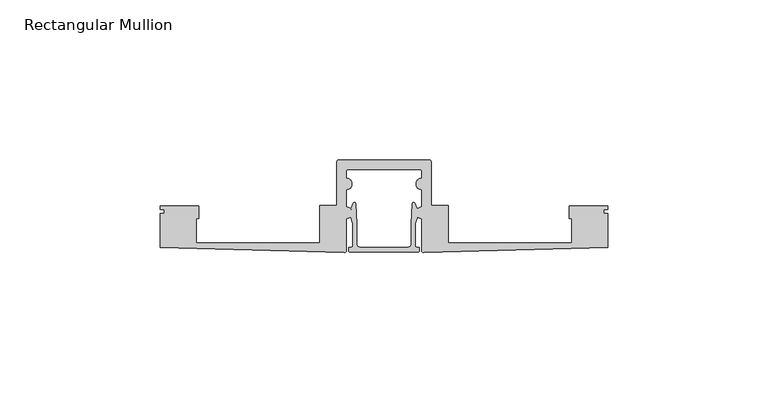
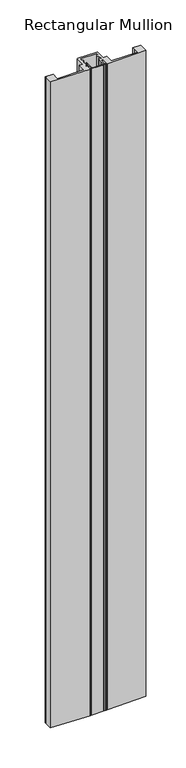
"""IFC4 building model written with IfcOpenShell, lengths in millimetres: member geometry, Rectangular Mullion : TE-H-01_04_Joint HF140."""

from ifc_helpers import new_model, si_unit, point, frame, frame_2d, origin, place, context, project, spatial, polyline, circle_curve, trimmed, segment, composite_curve, outline, extrude, source, transform, mapped, element, save


def rectangular_mullion_7144c495(model_context):
    return source(origin(), model_context, "Body", "SweptSolid", [
        extrude(outline(composite_curve([segment(trimmed(circle_curve(frame_2d((-14.0, 13.51429)), 0.8), [point((-14.8, 13.51429))], [point((-14.0, 14.31429))], False, "CARTESIAN"), True, "CONTINUOUS"), segment(polyline([(-14.0, 14.31429), (14.0, 14.31429)]), True, "CONTINUOUS"), segment(trimmed(circle_curve(frame_2d((14.0, 13.51429)), 0.8), [point((14.0, 14.31429))], [point((14.8, 13.51429))], False, "CARTESIAN"), True, "CONTINUOUS"), segment(polyline([(14.8, 13.51429), (14.8, 0.0), (20.0, 0.0), (20.0, -11.698639), (58.6700606, -11.6929599), (58.6701085, -4.0346075), (57.8702745, -4.0346075), (57.8702745, -0.2128017), (69.9996311, -0.2128017), (69.9996311, -1.2200784), (68.6998747, -1.2200784), (68.6998747, -2.534964), (69.9996311, -2.534964), (69.9996311, -13.034964), (12.4171521, -14.6817414)]), True, "CONTINUOUS"), segment(trimmed(circle_curve(frame_2d((12.4, -14.0819866)), 0.6), [point((12.4171521, -14.6817414))], [point((11.8, -14.0819866))], False, "CARTESIAN"), True, "CONTINUOUS"), segment(polyline([(11.8, -14.0819866), (11.8, -4.0365129)]), True, "CONTINUOUS"), segment(trimmed(circle_curve(frame_2d((11.8, -2.2365129)), 1.8), [point((11.8, -4.0365129))], [point((10.4804437, -3.460756))], False, "CARTESIAN"), True, "CONTINUOUS"), segment(polyline([(10.4804437, -3.460756), (9.7126284, -5.6551292), (9.7126284, -12.4982227)]), True, "CONTINUOUS"), segment(trimmed(circle_curve(frame_2d((10.2626284, -12.4982227)), 0.55), [point((9.7126284, -12.4982227))], [point((10.2626284, -13.0482227))], True, "CARTESIAN"), True, "CONTINUOUS"), segment(polyline([(10.2626284, -13.0482227), (11.0624892, -13.0482227), (11.0624892, -13.9982227)]), True, "CONTINUOUS"), segment(trimmed(circle_curve(frame_2d((10.5124892, -13.9982227)), 0.55), [point((11.0624892, -13.9982227))], [point((10.5124892, -14.5482227))], False, "CARTESIAN"), True, "CONTINUOUS"), segment(polyline([(10.5124892, -14.5482227), (-10.5124892, -14.5482227)]), True, "CONTINUOUS"), segment(trimmed(circle_curve(frame_2d((-10.5124892, -13.9982227)), 0.55), [point((-10.5124892, -14.5482227))], [point((-11.0624892, -13.9982227))], False, "CARTESIAN"), True, "CONTINUOUS"), segment(polyline([(-11.0624892, -13.9982227), (-11.0624892, -13.0482227), (-10.2626284, -13.0482227)]), True, "CONTINUOUS"), segment(trimmed(circle_curve(frame_2d((-10.2626284, -12.4982227)), 0.55), [point((-10.2626284, -13.0482227))], [point((-9.7126284, -12.4982227))], True, "CARTESIAN"), True, "CONTINUOUS"), segment(polyline([(-9.7126284, -12.4982227), (-9.7126284, -5.6551292), (-10.4433575, -3.5667463)]), True, "CONTINUOUS"), segment(trimmed(circle_curve(frame_2d((-11.8, -2.2365129)), 1.9), [point((-10.4433575, -3.5667463))], [point((-10.3404276, -1.0201048))], True, "CARTESIAN"), True, "CONTINUOUS"), segment(polyline([(-10.3404276, -1.0201048), (-9.6235002, 0.7360599)]), True, "CONTINUOUS"), segment(trimmed(circle_curve(frame_2d((-9.2715591, 0.5931911)), 0.3798342), [point((-9.6235002, 0.7360599))], [point((-8.8921936, 0.6120555))], False, "CARTESIAN"), True, "CONTINUOUS"), segment(polyline([(-8.8921936, 0.6120555), (-8.5126282, -5.7303486), (-8.5126282, -12.0482227)]), True, "CONTINUOUS"), segment(trimmed(circle_curve(frame_2d((-7.5126282, -12.0482227)), 1.0), [point((-8.5126282, -12.0482227))], [point((-7.5126282, -13.0482227))], True, "CARTESIAN"), True, "CONTINUOUS"), segment(polyline([(-7.5126282, -13.0482227), (7.5126282, -13.0482227)]), True, "CONTINUOUS"), segment(trimmed(circle_curve(frame_2d((7.5126282, -12.0482227)), 1.0), [point((7.5126282, -13.0482227))], [point((8.5126282, -12.0482227))], True, "CARTESIAN"), True, "CONTINUOUS"), segment(polyline([(8.5126282, -12.0482227), (8.5126282, -5.7303486), (8.8921936, 0.6120555)]), True, "CONTINUOUS"), segment(trimmed(circle_curve(frame_2d((9.2715591, 0.5931911)), 0.3798342), [point((8.8921936, 0.6120555))], [point((9.6235001, 0.73606))], False, "CARTESIAN"), True, "CONTINUOUS"), segment(polyline([(9.6235001, 0.73606), (10.3835688, -1.1257822)]), True, "CONTINUOUS"), segment(trimmed(circle_curve(frame_2d((11.8, -2.2365129)), 1.8), [point((10.3835688, -1.1257822))], [point((11.8, -0.4365129))], False, "CARTESIAN"), True, "CONTINUOUS"), segment(polyline([(11.8, -0.4365129), (11.8, 4.9634871)]), True, "CONTINUOUS"), segment(trimmed(circle_curve(frame_2d((11.8, 6.7634871)), 1.8), [point((11.8, 4.9634871))], [point((11.8, 8.5634871))], False, "CARTESIAN"), True, "CONTINUOUS"), segment(polyline([(11.8, 8.5634871), (11.8, 10.71429)]), True, "CONTINUOUS"), segment(trimmed(circle_curve(frame_2d((11.2, 10.71429)), 0.6), [point((11.8, 10.71429))], [point((11.2, 11.31429))], True, "CARTESIAN"), True, "CONTINUOUS"), segment(polyline([(11.2, 11.31429), (-11.2, 11.31429)]), True, "CONTINUOUS"), segment(trimmed(circle_curve(frame_2d((-11.2, 10.71429)), 0.6), [point((-11.2, 11.31429))], [point((-11.8, 10.71429))], True, "CARTESIAN"), True, "CONTINUOUS"), segment(polyline([(-11.8, 10.71429), (-11.8, 8.5634871)]), True, "CONTINUOUS"), segment(trimmed(circle_curve(frame_2d((-11.8, 6.7634871)), 1.8), [point((-11.8, 8.5634871))], [point((-11.8, 4.9634871))], False, "CARTESIAN"), True, "CONTINUOUS"), segment(polyline([(-11.8, 4.9634871), (-11.8, -0.4365129)]), True, "CONTINUOUS"), segment(trimmed(circle_curve(frame_2d((-11.8, -2.2365129)), 1.8), [point((-11.8, -0.4365129))], [point((-11.8, -4.0365129))], False, "CARTESIAN"), True, "CONTINUOUS"), segment(polyline([(-11.8, -4.0365129), (-11.8, -14.0819866)]), True, "CONTINUOUS"), segment(trimmed(circle_curve(frame_2d((-12.4, -14.0819866)), 0.6), [point((-11.8, -14.0819866))], [point((-12.4171521, -14.6817414))], False, "CARTESIAN"), True, "CONTINUOUS"), segment(polyline([(-12.4171521, -14.6817414), (-69.9996311, -13.034964), (-69.9996311, -2.534964), (-68.6998747, -2.534964), (-68.6998747, -1.2200784), (-69.9996311, -1.2200784), (-69.9996311, -0.2128017), (-57.8702745, -0.2128017), (-57.8702745, -4.0346075), (-58.6701085, -4.0346075), (-58.6700606, -11.6929599), (-20.0, -11.698639), (-20.0, 0.0), (-14.8, 0.0), (-14.8, 13.51429)]), True, "CONTINUOUS")], self_intersect=False)), frame((0.0, 0.0, -1000.0), z_axis=(0.0, 0.0, 1.0), x_axis=(1.0, 0.0, 0.0)), (0.0, 0.0, 1.0), 1000.0),
    ])


if __name__ == "__main__":
    model = new_model("IFC4")
    model_context = context("Model", 3, world=origin())
    ifc_project = project(units=[si_unit("LENGTHUNIT", "METRE", prefix="MILLI")], contexts=[model_context])
    site = spatial("IfcSite", under=ifc_project)
    building = spatial("IfcBuilding", under=site)
    placement = place(None, origin())
    rectangular_mullion_shape = rectangular_mullion_7144c495(model_context)
    element("IfcMember", 1, ObjectType="Rectangular Mullion : TE-H-01_04_Joint HF140", at=placement, inside=building, context=model_context, shape_type="MappedRepresentation", body=[
        mapped(rectangular_mullion_shape, transform((0.0, 0.0, 0.0), x_axis=(1.0, 0.0, 0.0), y_axis=(0.0, 1.0, 0.0), z_axis=(0.0, 0.0, 1.0))),
    ])
    save(model, "model.ifc")
